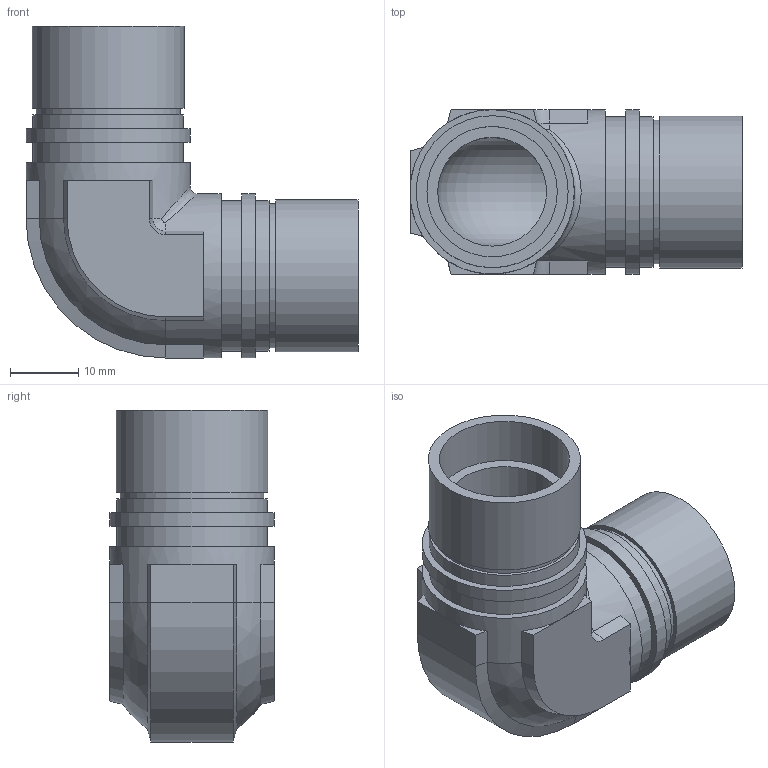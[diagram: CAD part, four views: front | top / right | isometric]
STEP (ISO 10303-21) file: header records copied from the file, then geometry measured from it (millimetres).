
FILE_DESCRIPTION( ( 'Unknown' ), '1' );
FILE_NAME( '//Sv02/01_社内情報/103_技術部/012_図面/図面/電子カタログ-3D/電子カタログ-3D元ファイル(par)/70_3D電子カタログ/03_UE/インチ/70-19.05UE-P.stp', 'Unknown', ( 'Unknown' ), ( 'Unknown' ), 'XStep 1.0', 'Unknown', ' ' );
FILE_SCHEMA( ( 'CONFIG_CONTROL_DESIGN' ) );
Length unit declared in the file: millimetre
Products named in the file (1): 1
Bounding box: 48.5 x 24 x 48.5 mm (x, y, z)
Volume: 14523 mm3; surface area: 9807.7 mm2
Topology: 1 solids, 1 shells, 71 faces, 148 edges, 91 vertices
Faces by surface type: plane 42, cylinder 17, cone 6, bspline 5, torus 1
Full cylindrical faces by diameter (mm): 15.9 x2, 19.05 x2, 21 x2, 22 x4, 22.2 x2, 24 x4
Entity records: 2124 total; most frequent: CARTESIAN_POINT 618, DIRECTION 324, ORIENTED_EDGE 256, AXIS2_PLACEMENT_3D 131, EDGE_CURVE 128, EDGE_LOOP 102, FACE_OUTER_BOUND 88, VERTEX_POINT 88
